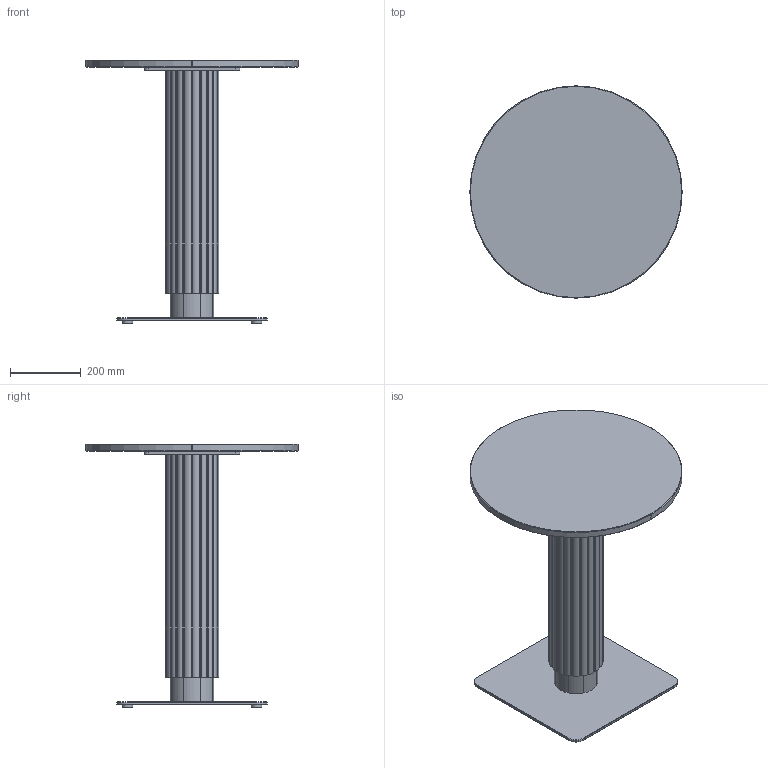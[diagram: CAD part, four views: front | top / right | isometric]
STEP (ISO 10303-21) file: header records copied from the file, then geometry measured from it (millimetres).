
FILE_DESCRIPTION( ('This file contains a STEP AP42 implementation' ,'as created by ZW3D STEP Interface translator.') ,'2;1' );
FILE_NAME( 'God - B_Carré - F1 - M1 - 600 x 600 x 750.stp' ,'24 912. 85458', (''), ('ZWCAD Software Co.'), 'Version 1.0', 'ZW3D to STEP translator', '' );
FILE_SCHEMA(('AUTOMOTIVE_DESIGN { 1 0 10303 214 1 1 1 1 }'));
Length unit declared in the file: millimetre
Products named in the file (15): 0; PIED BISTROT PARAMETRIQUE_; CROIX ACIER 370 V.02_; CRX-X370-02_; SOCLE ACIER L 425x425 V.02_; SCL-R425-02_; PLA-R30A-01_; PLA-R30A-01; COLONNE ACIER Ø48.5 V.02_; TUB-D048-02_; PLA-R48A-01_; Colonne GODRON H700_; WUERTH 0276063020 Euro-screw 6.3x2 Verzinkt_; PLATEAU BISTROT PARAMETRIQUE_; insert_m6_13_
Assembly tree (23 placements, depth 3):
  0
  PIED BISTROT PARAMETRIQUE_
    CROIX ACIER 370 V.02_
      CRX-X370-02_
    SOCLE ACIER L 425x425 V.02_
      SCL-R425-02_
      PLA-R30A-01_
      PLA-R30A-01  x3
    COLONNE ACIER Ø48.5 V.02_
      TUB-D048-02_
      PLA-R48A-01_  x2
    Colonne GODRON H700_
    WUERTH 0276063020 Euro-screw 6.3x2 Verzinkt_
    PLATEAU BISTROT PARAMETRIQUE_
      insert_m6_13_  x8
Bounding box: 600 x 600 x 744 mm (x, y, z)
Volume: 18151544.1 mm3; surface area: 2388538.6 mm2
Topology: 27 solids, 27 shells, 669 faces, 1662 edges, 1062 vertices
Faces by surface type: plane 302, cylinder 192, bspline 121, cone 53, torus 1
Full cylindrical faces by diameter (mm): 4.88 x1, 6 x8, 6.3 x1, 8 x45, 12 x2, 14 x2, 30 x4, 44.5 x3, 48.5 x1
Entity records: 16810 total; most frequent: CARTESIAN_POINT 4133, DIRECTION 2344, ORIENTED_EDGE 2338, EDGE_CURVE 1169, AXIS2_PLACEMENT_3D 829, VERTEX_POINT 756, VECTOR 686, LINE 686
